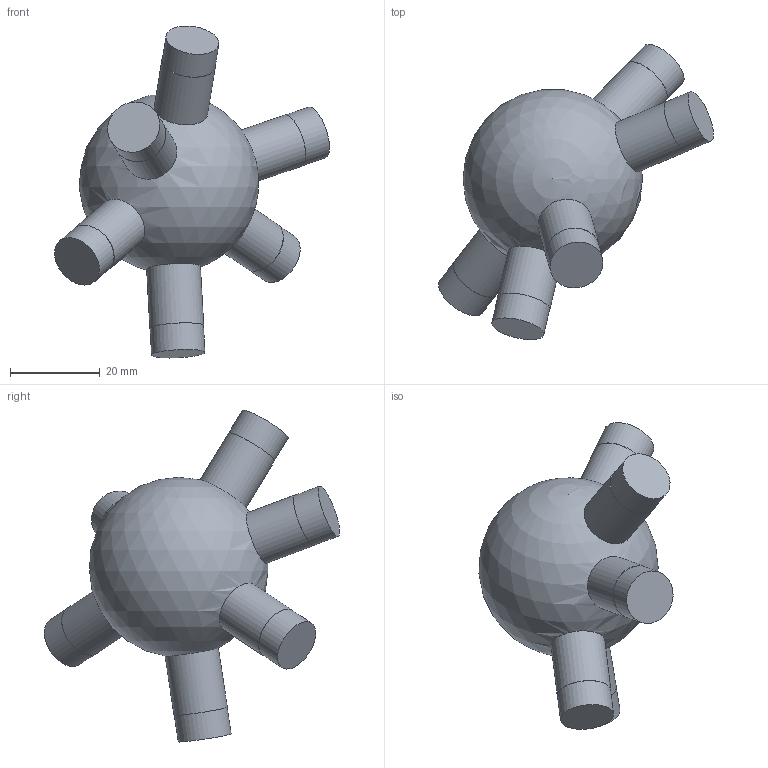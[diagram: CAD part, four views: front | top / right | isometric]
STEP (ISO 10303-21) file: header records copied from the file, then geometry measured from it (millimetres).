
FILE_DESCRIPTION(('Open CASCADE Model'),'2;1');
FILE_NAME('Open CASCADE Shape Model','2026-10-21T12:47:57',('Author'),( 'Open CASCADE'),'Open CASCADE STEP processor 7.9','Open CASCADE 7.9' ,'Unknown');
FILE_SCHEMA(('AUTOMOTIVE_DESIGN { 1 0 10303 214 1 1 1 1 }'));
Length unit declared in the file: millimetre
Products named in the file (1): Open CASCADE STEP translator 7.9 24
Bounding box: 61.19 x 65.74 x 73.9 mm (x, y, z)
Volume: 45816.9 mm3; surface area: 9229 mm2
Topology: 1 solids, 1 shells, 25 faces, 39 edges, 26 vertices
Faces by surface type: cylinder 12, plane 12, sphere 1
Full cylindrical faces by diameter (mm): 11.9 x6, 12 x6
Entity records: 1470 total; most frequent: CARTESIAN_POINT 572, DIRECTION 185, ORIENTED_EDGE 76, PCURVE 76, DEFINITIONAL_REPRESENTATION 76, LINE 63, VECTOR 63, AXIS2_PLACEMENT_3D 52
